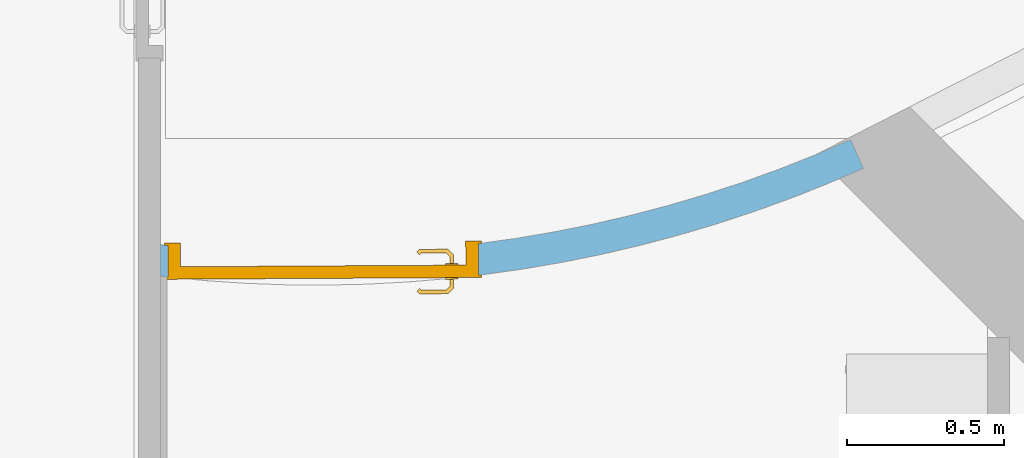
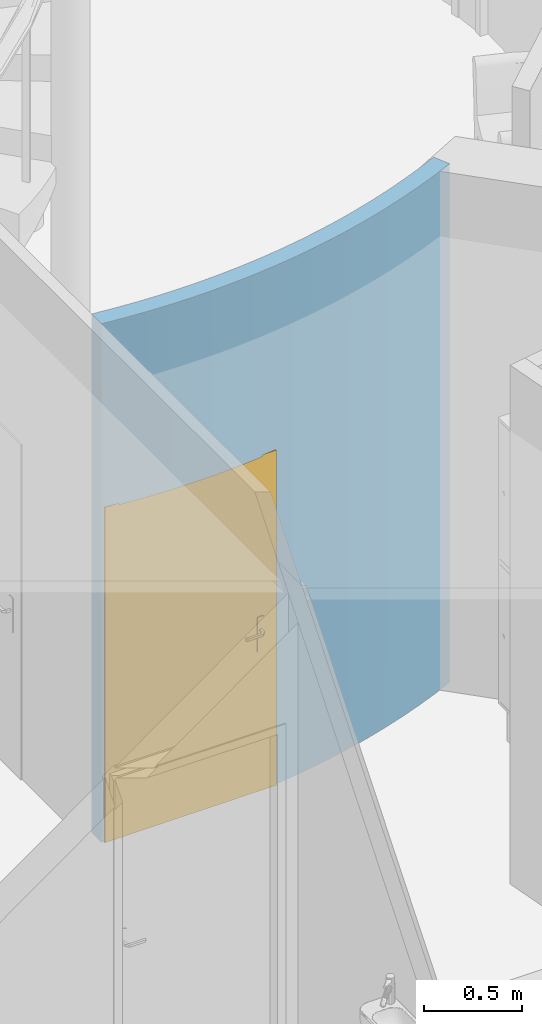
# One storey, part 85 of 137: 1 door, 1 opening, plus 1 element that does not belong to this part.
"""IFC2X3 building model written with IfcOpenShell, lengths in centimetres."""

from ifc_helpers import new_model, entity, si_unit, converted_unit, derived_unit, direction, frame, frame_2d, origin, place, context, subcontext, project, spatial, polyline, circle_curve, parameter, trimmed, segment, composite_curve, rectangle, outline, extrude, faceted_brep, source, transform, mapped, material, material_list, layer, layer_set, layer_usage, type_object, type_shapes, element, fill, save


model = new_model("IFC2X3")

# Units and contexts
model_context = context("Model", 3, precision=0.001, world=origin(), true_north=direction((6.12303176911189e-17, 1.0)))
body_context = subcontext(model_context, "Body", "Model", "MODEL_VIEW")
ifc_project = project(units=[si_unit("LENGTHUNIT", "METRE", prefix="CENTI"), si_unit("AREAUNIT", "SQUARE_METRE"), si_unit("VOLUMEUNIT", "CUBIC_METRE"), converted_unit("PLANEANGLEUNIT", "DEGREE", entity("IfcRatioMeasure", 0.0174532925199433), si_unit("PLANEANGLEUNIT", "RADIAN"), dimensions=[0, 0, 0, 0, 0, 0, 0]), si_unit("MASSUNIT", "GRAM", prefix="KILO"), si_unit("TIMEUNIT", "SECOND"), si_unit("FREQUENCYUNIT", "HERTZ"), si_unit("THERMODYNAMICTEMPERATUREUNIT", "DEGREE_CELSIUS"), derived_unit("THERMALTRANSMITTANCEUNIT", [(si_unit("MASSUNIT", "GRAM", prefix="KILO"), 1), (si_unit("THERMODYNAMICTEMPERATUREUNIT", "KELVIN"), -1), (si_unit("TIMEUNIT", "SECOND"), -3)]), derived_unit("VOLUMETRICFLOWRATEUNIT", [(si_unit("LENGTHUNIT", "METRE"), 3), (si_unit("TIMEUNIT", "SECOND"), -1)]), si_unit("ELECTRICCURRENTUNIT", "AMPERE"), si_unit("ELECTRICVOLTAGEUNIT", "VOLT"), si_unit("POWERUNIT", "WATT"), si_unit("FORCEUNIT", "NEWTON", prefix="KILO"), si_unit("ILLUMINANCEUNIT", "LUX"), si_unit("LUMINOUSFLUXUNIT", "LUMEN"), si_unit("LUMINOUSINTENSITYUNIT", "CANDELA"), derived_unit("USERDEFINED", [(si_unit("MASSUNIT", "GRAM", prefix="KILO"), -1), (si_unit("LENGTHUNIT", "METRE"), -2), (si_unit("TIMEUNIT", "SECOND"), 3), (si_unit("LUMINOUSFLUXUNIT", "LUMEN"), 1)]), derived_unit("LINEARVELOCITYUNIT", [(si_unit("LENGTHUNIT", "METRE"), 1), (si_unit("TIMEUNIT", "SECOND"), -1)]), si_unit("PRESSUREUNIT", "PASCAL"), derived_unit("USERDEFINED", [(si_unit("LENGTHUNIT", "METRE"), -2), (si_unit("MASSUNIT", "GRAM", prefix="KILO"), 1), (si_unit("TIMEUNIT", "SECOND"), -2)])], contexts=[model_context])

# Site, building, storey
site_placement = place(None, frame((8.62739174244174, -249.285249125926, 0.0)))
site = spatial("IfcSite", under=ifc_project, at=site_placement, Name="Default", CompositionType="ELEMENT")
building_placement = place(site_placement, origin())
building = spatial("IfcBuilding", under=site, at=building_placement, CompositionType="ELEMENT")
storey_placement = place(building_placement, origin())
storey = spatial("IfcBuildingStorey", under=building, at=storey_placement, Name="RDC", CompositionType="ELEMENT", Elevation=-8.82465566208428e-11)

# Wall, opening, door
ifc_material_1 = material(Name="Plâtre EXISTANT")
ifc_layer = layer(ifc_material_1, 10.0)
ifc_layer_set = layer_set([ifc_layer], Name="Mur de base:PLA EXISTANT 10")
ifc_layer_usage = layer_usage(ifc_layer_set, "AXIS2", "NEGATIVE", 5.0)
wall_type = type_object("IfcWallType", Name="Mur de base:PLA EXISTANT 10", PredefinedType="STANDARD", material=ifc_layer_set)
wall_placement = place(storey_placement, frame((2996.31386087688, 271.162038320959, 0.0)))
wall = element("IfcWallStandardCase", 1, at=wall_placement, inside=storey, type_object=wall_type, material=ifc_layer_usage, Name="Mur de base:PLA EXISTANT 10", ObjectType="Mur de base:PLA EXISTANT 10", context=body_context, shape_type="SweptSolid", body=[
    extrude(outline(composite_curve([segment(trimmed(circle_curve(frame_2d((50.0336851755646, 420.353285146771), x_axis=(1.0, 0.0)), 418.32050976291), [parameter(263.212150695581)], [parameter(294.069366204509)], True, "PARAMETER"), False, "CONTINUOUS"), segment(polyline([(0.590966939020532, 4.96495297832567), (0.590966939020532, -5.10397086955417)]), True, "CONTINUOUS"), segment(trimmed(circle_curve(frame_2d((50.0336851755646, 420.353285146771), x_axis=(1.0, 0.0)), 428.32050976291), [parameter(263.371346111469)], [parameter(294.069366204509)], True, "PARAMETER"), True, "CONTINUOUS"), segment(polyline([(224.720926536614, 29.2742307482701), (220.642503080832, 38.4047543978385)]), True, "CONTINUOUS")], self_intersect=False)), origin(), (0.0, 0.0, 1.0), 322.000000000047),
])
opening_placement = place(wall_placement, frame((3.02702148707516, -17.0424788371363, 0.0)))
opening = element("IfcOpeningElement", 2, at=opening_placement, cuts=wall, Name="Simple(R)-bois_MU:93x204cm_MU:1", ObjectType="Opening", context=body_context, shape_type="SweptSolid", body=[
    extrude(rectangle(XDim=206.999999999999, YDim=98.9999999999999, at=frame_2d((103.499999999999, 49.5000000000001), x_axis=(1.0, 0.0))), frame((0.0, 0.0, 0.0), z_axis=(-0.00570215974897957, 0.999983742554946, 0.0), x_axis=(0.0, 0.0, 1.0)), (0.0, 0.0, 1.0), 24.2465295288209),
])
ifc_material_2 = material(Name="Porte-Poignée_MU")
ifc_material_3 = material(Name="Porte-Cadre_MU")
ifc_material_4 = material(Name="Porte Panneau_MU")
ifc_material_list_1 = material_list([ifc_material_2, ifc_material_3, ifc_material_4])
ifc_material_list_2 = material_list([ifc_material_2, ifc_material_3, ifc_material_4])
door_style = type_object("IfcDoorStyle", Name="93x204cm_MU", ConstructionType="NOTDEFINED", OperationType="SINGLE_SWING_LEFT", ParameterTakesPrecedence=False, Sizeable=False, material=ifc_material_list_2)
shared_shape = source(origin(), body_context, "Body", "Brep", [
    faceted_brep([(91.7025298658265, 3.69999999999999, 100.778044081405), (91.2974701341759, 3.69999999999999, 100.778044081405), (90.8999999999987, 3.69999999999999, 100.699999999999), (90.9000000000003, 3.69999999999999, 99.3000000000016), (91.2974701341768, 3.69999999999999, 99.2219559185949), (91.7025298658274, 3.69999999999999, 99.2219559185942), (92.1000000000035, 3.69999999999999, 99.2999999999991), (92.1000000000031, 3.69999999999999, 100.699999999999), (90.8999999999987, 5.94852045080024, 100.699999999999), (90.8999999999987, 5.94852045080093, 99.3000000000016), (91.2974701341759, 6.1131579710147, 100.778044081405), (91.7025298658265, 6.2809392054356, 100.778044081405), (90.0838906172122, 7.89957845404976, 100.778044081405), (89.9161093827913, 7.49451872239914, 100.778044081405), (81.5793122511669, 7.49451872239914, 100.778044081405), (81.4115310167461, 7.89957845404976, 100.778044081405), (80.6451046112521, 7.13315204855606, 100.778044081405), (80.9315250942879, 6.84673156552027, 100.778044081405), (92.1000000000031, 6.44557672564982, 100.699999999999), (92.1000000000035, 6.44557672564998, 99.2999999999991), (91.7025298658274, 6.28093920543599, 99.2219559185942), (91.2974701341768, 6.11315797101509, 99.2219559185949), (89.9161093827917, 7.49451872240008, 99.2219559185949), (90.0838906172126, 7.8995784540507, 99.2219559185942), (81.4115310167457, 7.8995784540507, 99.2219559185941), (81.5793122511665, 7.49451872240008, 99.2219559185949), (80.9315250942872, 6.84673156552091, 99.2219559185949), (80.6451046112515, 7.1331520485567, 99.2219559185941), (89.7514718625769, 7.09704858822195, 100.699999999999), (89.7514718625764, 7.09704858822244, 99.3000000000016), (90.2485281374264, 8.29704858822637, 100.699999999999), (90.2485281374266, 8.29704858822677, 99.2999999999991), (85.7477108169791, 7.09704858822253, 100.699999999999), (81.7439497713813, 7.09704858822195, 100.699999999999), (81.7439497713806, 7.09704858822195, 99.3000000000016), (85.7477108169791, 7.09704858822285, 99.3000000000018), (85.747710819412, 7.71249275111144, 100.787811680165), (85.2399422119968, 8.29704858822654, 100.699999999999), (81.2468934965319, 8.29704858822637, 100.699999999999), (86.2554791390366, 8.29704858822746, 99.2999999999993), (81.2468934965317, 8.29704858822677, 99.2999999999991), (85.7477107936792, 7.71249274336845, 99.2121883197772), (80.3640507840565, 7.41420587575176, 100.699999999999), (80.364050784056, 7.41420587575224, 99.2999999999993), (81.2125789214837, 6.56567773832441, 99.3000000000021), (81.2125789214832, 6.56567773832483, 100.699999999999)], [[[0, 1, 2, 3, 4, 5, 6, 7]], [[8, 9, 3, 2]], [[1, 10, 8, 2]], [[1, 0, 11, 12, 13, 10]], [[14, 15, 16, 17]], [[7, 18, 11, 0]], [[18, 7, 6, 19]], [[6, 5, 20, 19]], [[5, 4, 21, 22, 23, 20]], [[24, 25, 26, 27]], [[4, 3, 9, 21]], [[28, 29, 9, 8]], [[8, 10, 13, 28]], [[18, 30, 12, 11]], [[31, 30, 18, 19]], [[19, 20, 23, 31]], [[21, 9, 29, 22]], [[29, 28, 32, 33, 34, 35]], [[36, 32, 13]], [[37, 38, 15]], [[37, 12, 30]], [[36, 12, 37]], [[14, 32, 36]], [[36, 15, 14]], [[28, 13, 32]], [[32, 14, 33]], [[12, 36, 13]], [[15, 36, 37]], [[30, 31, 39, 40, 38, 37]], [[23, 41, 39]], [[24, 39, 41]], [[39, 31, 23]], [[39, 24, 40]], [[22, 35, 41]], [[41, 23, 22]], [[41, 35, 25]], [[35, 22, 29]], [[34, 25, 35]], [[24, 41, 25]], [[17, 16, 42, 43, 27, 26, 44, 45]], [[45, 44, 34, 33]], [[33, 14, 17, 45]], [[15, 38, 42, 16]], [[43, 42, 38, 40]], [[24, 27, 43, 40]], [[34, 44, 26, 25]]]),
    faceted_brep([(91.2974701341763, -1.30000000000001, 100.778044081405), (91.7025298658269, -1.30000000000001, 100.778044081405), (92.1000000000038, -1.30000000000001, 100.699999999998), (92.1000000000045, -1.30000000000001, 99.2999999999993), (91.7025298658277, -1.30000000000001, 99.2219559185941), (91.2974701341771, -1.30000000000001, 99.2219559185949), (90.899999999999, -1.30000000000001, 99.3000000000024), (90.8999999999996, -1.30000000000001, 100.699999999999), (91.7025298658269, -3.90045754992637, 100.778044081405), (92.100000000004, -4.06509507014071, 100.699999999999), (91.2974701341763, -3.73267631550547, 100.778044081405), (89.9298602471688, -5.10028620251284, 100.778044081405), (90.0976414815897, -5.50534593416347, 100.778044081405), (81.4142453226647, -5.50534593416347, 100.778044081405), (81.5820265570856, -5.10028620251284, 100.778044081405), (80.9342394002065, -4.4524990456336, 100.778044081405), (80.6478189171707, -4.73891952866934, 100.778044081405), (90.8999999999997, -3.56803879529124, 100.699999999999), (90.899999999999, -3.56803879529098, 99.3000000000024), (91.2974701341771, -3.7326763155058, 99.2219559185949), (91.7025298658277, -3.9004575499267, 99.2219559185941), (90.09764148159, -5.50534593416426, 99.2219559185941), (89.9298602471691, -5.10028620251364, 99.2219559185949), (81.5820265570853, -5.10028620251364, 99.2219559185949), (81.4142453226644, -5.50534593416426, 99.2219559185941), (80.6478189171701, -4.73891952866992, 99.2219559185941), (80.9342394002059, -4.45249904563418, 99.2219559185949), (92.1000000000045, -4.06509507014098, 99.2999999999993), (90.2622790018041, -5.90281606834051, 100.699999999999), (89.7652227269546, -4.70281606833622, 100.699999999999), (89.7652227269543, -4.70281606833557, 99.3000000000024), (90.2622790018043, -5.90281606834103, 99.2999999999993), (85.7559433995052, -5.31828027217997, 100.787811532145), (86.2692302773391, -5.90281606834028, 100.699999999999), (81.2496078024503, -5.90281606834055, 100.699999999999), (85.7559434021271, -4.70281606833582, 100.699999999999), (81.7466640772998, -4.70281606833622, 100.699999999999), (85.7559436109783, -4.70281606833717, 99.3000000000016), (81.7466640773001, -4.70281606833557, 99.3000000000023), (85.7559434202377, -5.31828027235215, 99.2121884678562), (85.2426572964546, -5.90281606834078, 99.2999999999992), (81.2496078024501, -5.90281606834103, 99.2999999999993), (81.2152932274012, -4.17144521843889, 99.3000000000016), (80.366765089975, -5.01997335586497, 99.2999999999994), (80.3667650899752, -5.01997335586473, 100.699999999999), (81.2152932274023, -4.17144521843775, 100.699999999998)], [[[0, 1, 2, 3, 4, 5, 6, 7]], [[2, 1, 8, 9]], [[1, 0, 10, 11, 12, 8]], [[13, 14, 15, 16]], [[0, 7, 17, 10]], [[18, 17, 7, 6]], [[5, 19, 18, 6]], [[5, 4, 20, 21, 22, 19]], [[23, 24, 25, 26]], [[3, 27, 20, 4]], [[9, 27, 3, 2]], [[9, 8, 12, 28]], [[10, 17, 29, 11]], [[30, 29, 17, 18]], [[18, 19, 22, 30]], [[20, 27, 31, 21]], [[28, 31, 27, 9]], [[12, 32, 33]], [[13, 33, 32]], [[33, 28, 12]], [[33, 13, 34]], [[11, 35, 32]], [[32, 12, 11]], [[32, 35, 14]], [[35, 11, 29]], [[36, 14, 35]], [[13, 32, 14]], [[29, 30, 37, 38, 36, 35]], [[39, 37, 22]], [[40, 41, 24]], [[40, 21, 31]], [[39, 21, 40]], [[23, 37, 39]], [[39, 24, 23]], [[30, 22, 37]], [[37, 23, 38]], [[21, 39, 22]], [[24, 39, 40]], [[31, 28, 33, 34, 41, 40]], [[42, 26, 25, 43, 44, 16, 15, 45]], [[13, 16, 44, 34]], [[36, 45, 15, 14]], [[42, 45, 36, 38]], [[38, 23, 26, 42]], [[24, 41, 43, 25]], [[44, 43, 41, 34]]]),
    faceted_brep([(91.5000000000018, 3.19999999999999, 86.4641016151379), (92.5352761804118, 3.19999999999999, 86.6003983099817), (93.5000000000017, 3.19999999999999, 87.0), (93.5000000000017, 3.19999999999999, 108.0), (92.5352761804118, 3.19999999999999, 108.399601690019), (91.5000000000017, 3.19999999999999, 108.535898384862), (90.4647238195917, 3.19999999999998, 108.399601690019), (89.5000000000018, 3.19999999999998, 108.0), (89.5000000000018, 3.19999999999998, 87.0), (90.4647238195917, 3.19999999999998, 86.6003983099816), (91.5000000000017, 3.69999999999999, 108.535898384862), (92.5352761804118, 3.69999999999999, 108.399601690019), (93.5000000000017, 3.69999999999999, 108.0), (93.5000000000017, 3.69999999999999, 87.0), (92.5352761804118, 3.69999999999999, 86.6003983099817), (91.5000000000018, 3.69999999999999, 86.4641016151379), (90.4647238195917, 3.69999999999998, 86.6003983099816), (89.5000000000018, 3.69999999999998, 87.0), (89.5000000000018, 3.69999999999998, 108.0), (90.4647238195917, 3.69999999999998, 108.399601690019)], [[[0, 1, 2, 3, 4, 5, 6, 7, 8, 9]], [[10, 11, 12, 13, 14, 15, 16, 17, 18, 19]], [[6, 19, 18, 7]], [[5, 10, 19, 6]], [[4, 11, 10, 5]], [[4, 3, 12, 11]], [[12, 3, 2, 13]], [[1, 14, 13, 2]], [[0, 15, 14, 1]], [[9, 16, 15, 0]], [[9, 8, 17, 16]], [[17, 8, 7, 18]]]),
    faceted_brep([(91.5000000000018, -1.30000000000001, 86.4641016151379), (92.5352761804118, -1.30000000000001, 86.6003983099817), (93.5000000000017, -1.3, 87.0), (93.5000000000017, -1.3, 108.0), (92.5352761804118, -1.30000000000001, 108.399601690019), (91.5000000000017, -1.30000000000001, 108.535898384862), (90.4647238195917, -1.30000000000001, 108.399601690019), (89.5000000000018, -1.30000000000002, 108.0), (89.5000000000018, -1.30000000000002, 87.0), (90.4647238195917, -1.30000000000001, 86.6003983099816), (93.5000000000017, -0.800000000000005, 108.0), (93.5000000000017, -0.800000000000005, 87.0), (92.5352761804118, -0.800000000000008, 86.6003983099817), (91.5000000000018, -0.800000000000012, 86.4641016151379), (90.4647238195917, -0.800000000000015, 86.6003983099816), (89.5000000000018, -0.800000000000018, 87.0), (89.5000000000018, -0.800000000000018, 108.0), (90.4647238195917, -0.800000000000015, 108.399601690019), (91.5000000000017, -0.800000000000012, 108.535898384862), (92.5352761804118, -0.800000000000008, 108.399601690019)], [[[0, 1, 2, 3, 4, 5, 6, 7, 8, 9]], [[10, 11, 12, 13, 14, 15, 16, 17, 18, 19]], [[1, 12, 11, 2]], [[0, 13, 12, 1]], [[9, 14, 13, 0]], [[9, 8, 15, 14]], [[15, 8, 7, 16]], [[6, 17, 16, 7]], [[5, 18, 17, 6]], [[4, 19, 18, 5]], [[4, 3, 10, 19]], [[10, 3, 2, 11]]]),
    faceted_brep([(100.0, 0.0, 0.0), (101.0, 0.0, 0.0), (101.0, -0.799999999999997, 0.0), (97.0, -0.799999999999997, 0.0), (97.0, 3.2, 0.0), (96.0, 3.2, 0.0), (96.0, 10.8000000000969, 0.0), (101.0, 10.8000000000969, 0.0), (101.0, 10.0, 0.0), (100.0, 10.0, 0.0), (100.0, 10.0, 207.0), (100.0, 0.0, 207.0), (101.0, 10.0, 208.0), (0.0, 10.0, 208.0), (0.0, 10.0, 0.0), (1.0, 10.0, 0.0), (1.0, 10.0, 207.0), (101.0, 10.8000000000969, 208.0), (96.0, 10.8000000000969, 203.0), (5.0, 10.8000000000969, 203.0), (5.0, 10.8000000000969, 0.0), (0.0, 10.8000000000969, 0.0), (0.0, 10.8000000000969, 208.0), (96.0, 3.2, 203.0), (97.0, 3.2, 204.0), (4.0, 3.2, 204.0), (4.0, 3.2, 0.0), (5.0, 3.2, 0.0), (5.0, 3.2, 203.0), (97.0, -0.799999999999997, 204.0), (101.0, -0.799999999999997, 208.0), (0.0, -0.799999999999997, 208.0), (0.0, -0.799999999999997, 0.0), (4.0, -0.799999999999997, 0.0), (4.0, -0.799999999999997, 204.0), (101.0, 0.0, 208.0), (1.0, 0.0, 207.0), (1.0, 0.0, 0.0), (0.0, 0.0, 0.0), (0.0, 0.0, 208.0)], [[[0, 1, 2, 3, 4, 5, 6, 7, 8, 9]], [[9, 10, 11, 0]], [[8, 12, 13, 14, 15, 16, 10, 9]], [[7, 17, 12, 8]], [[6, 18, 19, 20, 21, 22, 17, 7]], [[5, 23, 18, 6]], [[4, 24, 25, 26, 27, 28, 23, 5]], [[3, 29, 24, 4]], [[2, 30, 31, 32, 33, 34, 29, 3]], [[1, 35, 30, 2]], [[0, 11, 36, 37, 38, 39, 35, 1]], [[16, 15, 37, 36]], [[37, 15, 14, 21, 20, 27, 26, 33, 32, 38]], [[22, 21, 14, 13]], [[28, 27, 20, 19]], [[34, 33, 26, 25]], [[39, 38, 32, 31]], [[10, 16, 36, 11]], [[17, 22, 13, 12]], [[23, 28, 19, 18]], [[29, 34, 25, 24]], [[35, 39, 31, 30]]]),
    faceted_brep([(97.0, -0.799999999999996, 204.0), (4.0, -0.799999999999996, 204.0), (4.0, -0.799999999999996, 0.0), (97.0, -0.799999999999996, 0.0), (97.0, 3.2, 204.0), (97.0, 3.2, 0.0), (4.0, 3.2, 0.0), (4.0, 3.2, 204.0)], [[[0, 1, 2, 3]], [[4, 5, 6, 7]], [[3, 5, 4, 0]], [[2, 6, 5, 3]], [[1, 7, 6, 2]], [[0, 4, 7, 1]]]),
])
type_shapes(door_style, [shared_shape])
door_placement = place(opening_placement, frame((-1.06692198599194, 11.7332104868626, 0.0), z_axis=(0.0, 0.0, 1.0), x_axis=(0.999983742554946, 0.00570215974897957, 0.0)))
door = element("IfcDoor", 3, at=door_placement, inside=storey, type_object=door_style, material=ifc_material_list_1, Name="Simple(R)-bois_MU:93x204cm_MU", ObjectType="93x204cm_MU", OverallHeight=206.999999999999, OverallWidth=99.0, context=body_context, shape_type="MappedRepresentation", body=[
    mapped(shared_shape, transform((0.0, 0.0, 0.0), scale=1.0)),
])
fill(opening, door)

save(model, "model.ifc")
